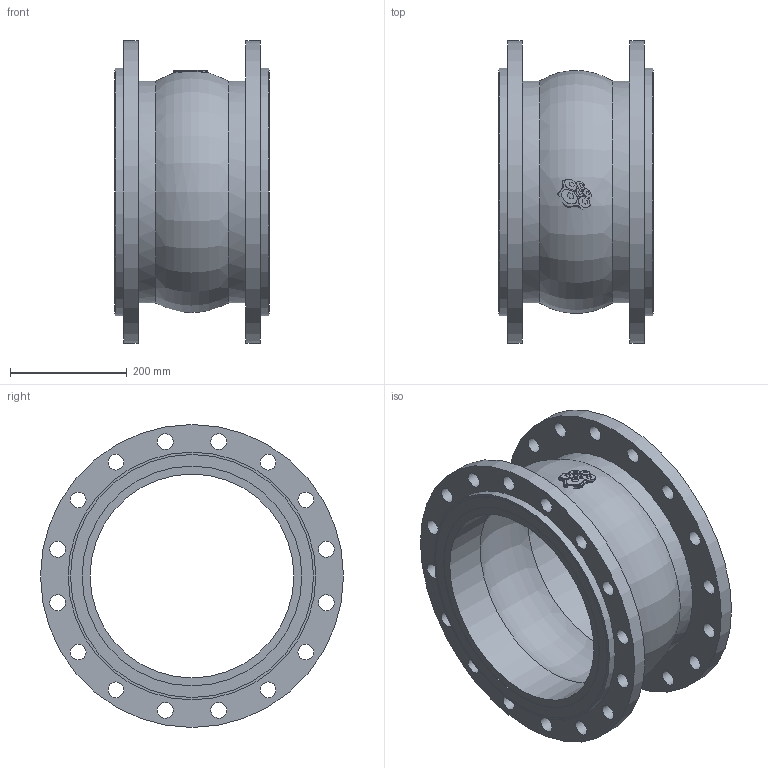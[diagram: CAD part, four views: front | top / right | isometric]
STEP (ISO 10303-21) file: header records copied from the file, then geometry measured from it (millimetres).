
FILE_DESCRIPTION(('STEP AP203'), '1');
FILE_NAME('3D_501-350-EPDM-FF', '', ('UNSPECIFIED'), ('UNSPECIFIED'), 'C3D Converter', 'C3D Toolkit', '');
FILE_SCHEMA(('CONFIG_CONTROL_DESIGN'));
Length unit declared in the file: millimetre
Bounding box: 265 x 520 x 520 mm (x, y, z)
Volume: 10246193.2 mm3; surface area: 1131341.8 mm2
Topology: 1 solids, 1 shells, 883 faces, 2595 edges, 1736 vertices
Faces by surface type: plane 831, cylinder 44, torus 8
Full cylindrical faces by diameter (mm): 27 x32, 350 x2, 377 x2, 381 x2, 417 x2, 425 x2, 520 x2
Entity records: 37998 total; most frequent: CARTESIAN_POINT 8926, ORIENTED_EDGE 5098, DIRECTION 3616, EDGE_CURVE 2549, VERTEX_POINT 1736, LINE 1626, VECTOR 1626, EDGE_LOOP 1017
